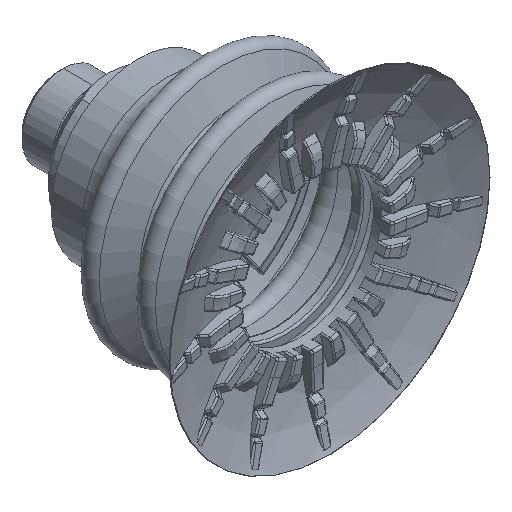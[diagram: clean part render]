
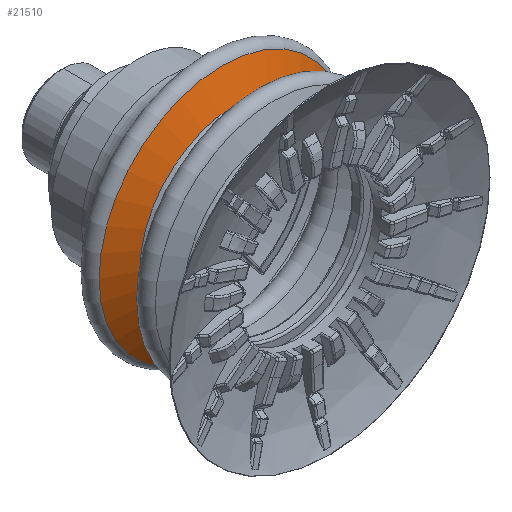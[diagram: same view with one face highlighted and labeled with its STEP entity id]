
A CAD part, isometric view. The second image highlights one B-rep face of the part: STEP entity #21510.
In plain terms, the highlighted conical face has half-angle 64.453 degrees and reference radius 19.4 mm.
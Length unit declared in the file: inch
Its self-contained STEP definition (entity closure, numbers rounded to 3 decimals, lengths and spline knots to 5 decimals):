
#6664 = ORIENTED_EDGE ( 'NONE', *, *, #71864, .F. ) ;
#6813 = EDGE_LOOP ( 'NONE', ( #63799 ) ) ;
#11542 = DIRECTION ( 'NONE',  ( 1., 0., 0. ) ) ;
#12613 = CONICAL_SURFACE ( 'NONE', #18468, 0.76376, 1.125 ) ;
#12899 = FACE_OUTER_BOUND ( 'NONE', #43373, .T. ) ;
#13929 = DIRECTION ( 'NONE',  ( 1., 0., 0. ) ) ;
#17764 = CARTESIAN_POINT ( 'NONE',  ( 0., 0., -0.67714 ) ) ;
#18379 = FACE_BOUND ( 'NONE', #6813, .T. ) ;
#18468 = AXIS2_PLACEMENT_3D ( 'NONE', #40018, #40749, #35237 ) ;
#19881 = AXIS2_PLACEMENT_3D ( 'NONE', #17764, #56646, #11542 ) ;
#21510 = ADVANCED_FACE ( 'NONE', ( #18379, #12899 ), #12613, .T. ) ;
#31536 = CIRCLE ( 'NONE', #61979, 0.76376 ) ;
#35237 = DIRECTION ( 'NONE',  ( 1., 0., 0. ) ) ;
#40018 = CARTESIAN_POINT ( 'NONE',  ( 0., 0., -0.78208 ) ) ;
#40749 = DIRECTION ( 'NONE',  ( 0., 0., 1. ) ) ;
#41784 = DIRECTION ( 'NONE',  ( 0., 0., 1. ) ) ;
#43373 = EDGE_LOOP ( 'NONE', ( #6664 ) ) ;
#44227 = VERTEX_POINT ( 'NONE', #65913 ) ;
#50074 = VERTEX_POINT ( 'NONE', #72114 ) ;
#56646 = DIRECTION ( 'NONE',  ( 0., 0., 1. ) ) ;
#61979 = AXIS2_PLACEMENT_3D ( 'NONE', #68978, #41784, #13929 ) ;
#62061 = CIRCLE ( 'NONE', #19881, 0.9833 ) ;
#62793 = EDGE_CURVE ( 'NONE', #44227, #44227, #31536, .T. ) ;
#63799 = ORIENTED_EDGE ( 'NONE', *, *, #62793, .T. ) ;
#65913 = CARTESIAN_POINT ( 'NONE',  ( 0.76376, 0., -0.78208 ) ) ;
#68978 = CARTESIAN_POINT ( 'NONE',  ( 0., 0., -0.78208 ) ) ;
#71864 = EDGE_CURVE ( 'NONE', #50074, #50074, #62061, .T. ) ;
#72114 = CARTESIAN_POINT ( 'NONE',  ( 0.9833, 0., -0.67714 ) ) ;
